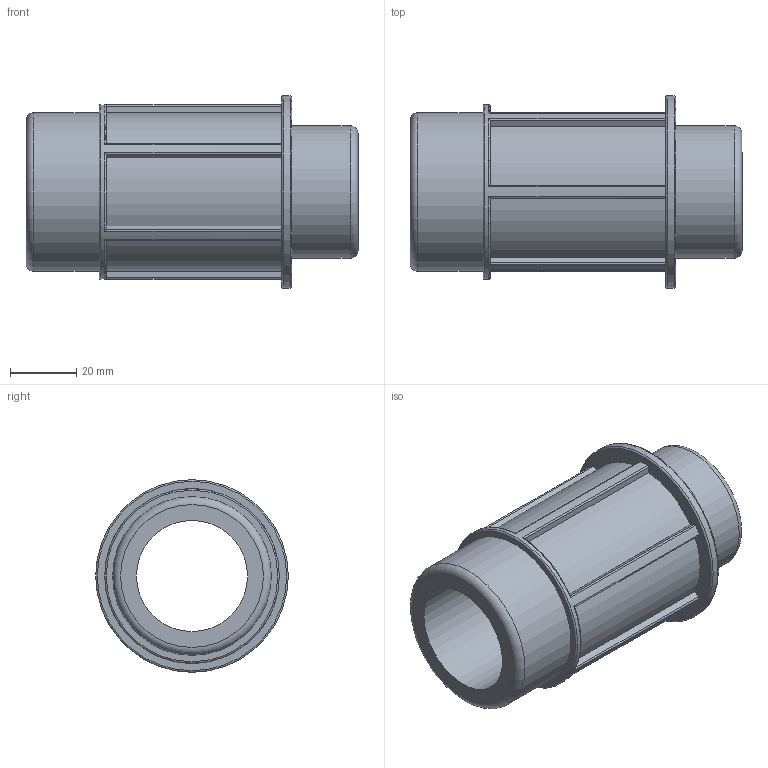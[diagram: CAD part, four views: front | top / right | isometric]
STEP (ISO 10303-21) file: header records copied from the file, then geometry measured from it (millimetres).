
FILE_DESCRIPTION(/* description */ ('PLASSON THREADED MALE ADAPTOR 40-1.1/2"'),/* implementation_level */ '2;1');
FILE_NAME(/* name */ 'C:\Dropbox\KIMPROJECTS-Inventor\99-16-3568-Processing\Silver+MF ISRAEL\078901\078901040015.ipt.stp',/* time_stamp */ '2018-04-09T13:01:58+03:00',/* author */ ('KIM'),/* organization */ (''),/* preprocessor_version */ 'ST-DEVELOPER v15.6',/* originating_system */ 'Autodesk Inventor 2015',/* authorisation */ '');
FILE_SCHEMA (('AUTOMOTIVE_DESIGN { 1 0 10303 214 3 1 1 }'));
Length unit declared in the file: millimetre
Products named in the file (1): 078901040015
Bounding box: 100 x 58 x 58 mm (x, y, z)
Volume: 86649.5 mm3; surface area: 30319.8 mm2
Topology: 1 solids, 1 shells, 57 faces, 151 edges, 99 vertices
Faces by surface type: cylinder 23, plane 23, torus 11
Full cylindrical faces by diameter (mm): 33.462 x1, 40 x1, 47.803 x1, 52.583 x1, 58 x1
Entity records: 1894 total; most frequent: CARTESIAN_POINT 488, DIRECTION 288, ORIENTED_EDGE 280, EDGE_CURVE 140, AXIS2_PLACEMENT_3D 114, VERTEX_POINT 98, EDGE_LOOP 72, LINE 60
